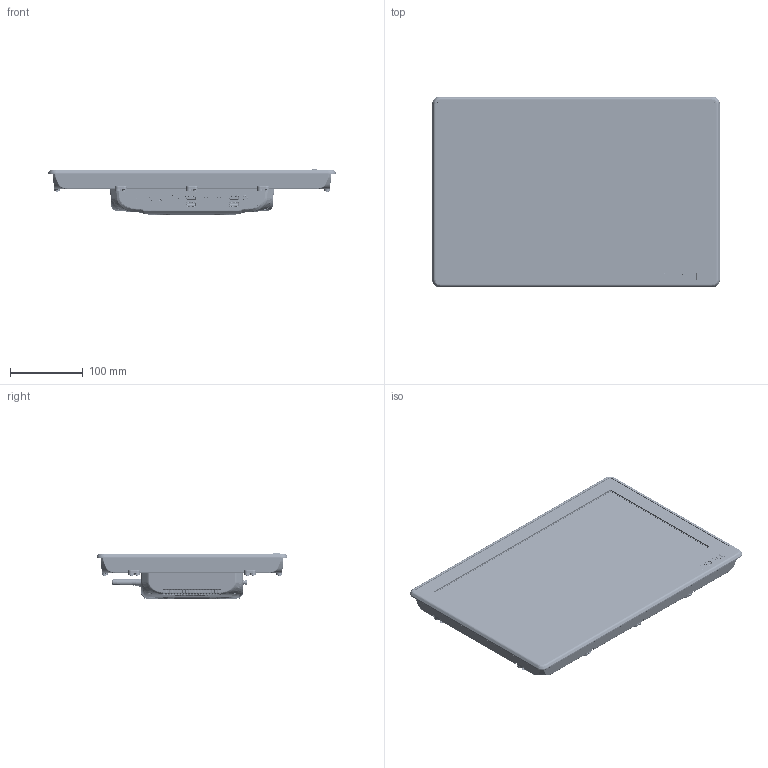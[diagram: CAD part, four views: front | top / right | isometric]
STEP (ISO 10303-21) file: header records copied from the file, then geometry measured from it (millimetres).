
FILE_DESCRIPTION (( 'STEP AP214' ), '1' );
FILE_NAME ('156.STEP', '2024-04-25T03:06:21', ( '' ), ( '' ), 'SwSTEP 2.0', 'SolidWorks 2018', '' );
FILE_SCHEMA (( 'AUTOMOTIVE_DESIGN' ));
Length unit declared in the file: millimetre
Products named in the file (1): 156
Bounding box: 395.98 x 262.98 x 63.46 mm (x, y, z)
Surface area: 858918.5 mm2 (no closed solid volume)
Topology: 0 solids, 369 shells, 25527 faces, 66639 edges, 42170 vertices
Faces by surface type: plane 15678, cylinder 5862, bspline 2721, torus 726, sphere 322, cone 218
Full cylindrical faces by diameter (mm): 0.6 x18, 0.8 x4, 1 x9, 1.1 x24, 1.2 x7, 2 x2, 2.2 x2, 2.3 x2, 2.5 x2, 2.6 x2, 2.975 x2, 3 x8, 3.136 x2, 3.2 x8, 3.3 x8, 3.5 x8, 4 x7, 4.2 x15, 4.5 x4, 4.9 x2, 5.9 x1, 6 x3, 6.5 x1, 7.306 x4, 7.6 x1, 8.1 x2, 8.2 x2, 8.429 x4
Entity records: 1187886 total; most frequent: CARTESIAN_POINT 300090, ORIENTED_EDGE 131440, DIRECTION 115093, EDGE_CURVE 65725, LINE 45663, VECTOR 45663, VERTEX_POINT 42034, AXIS2_PLACEMENT_3D 34715
